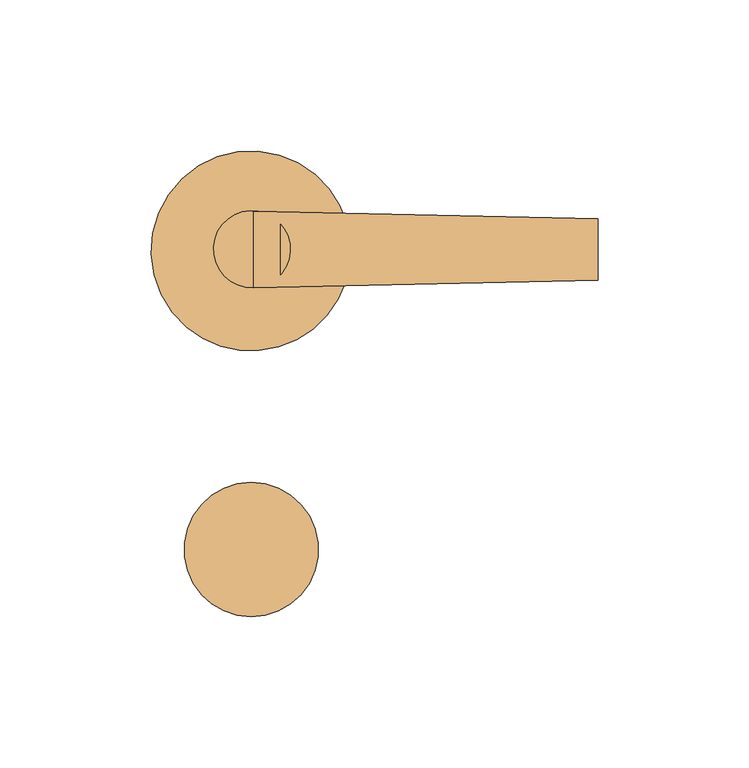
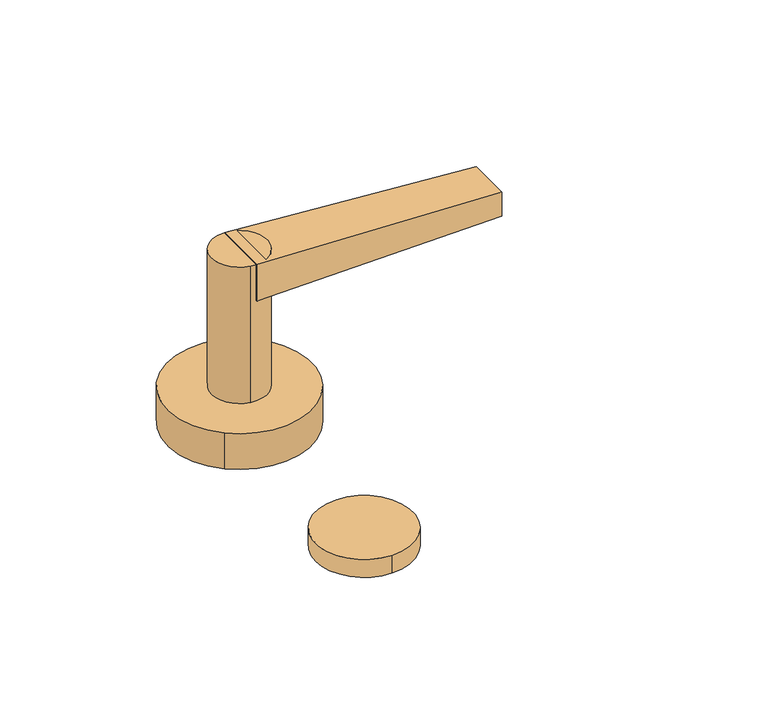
"""IFC4 building model written with IfcOpenShell, lengths in millimetres: door geometry, Door_Handle-Teknion-FHHSL-Schlage L Series(Child) : (3) Office and Inner Entrance Lock w/Interchangeable core keyway w/ADA thumbturn."""

from ifc_helpers import new_model, si_unit, point, frame, frame_2d, origin, origin_with_axes, place, context, project, spatial, circle_curve, trimmed, segment, composite_curve, outline, extrude, source, transform, mapped, element, save
from ifc_brep_helpers import plane_surface, spline_surface, advanced_brep


def door_bc668c18(model_context):
    return source(origin(), model_context, "Body", "SolidModel", [
        extrude(outline(composite_curve([segment(trimmed(circle_curve(frame_2d((-1.5048449, -99.4936932)), 22.212872), [point((-1.5048449, -121.7065651))], [point((-1.5048449, -77.2808212))], False, "CARTESIAN"), True, "CONTINUOUS"), segment(trimmed(circle_curve(frame_2d((-1.5048449, -99.4936932)), 22.212872), [point((-1.5048449, -77.2808212))], [point((-1.5048449, -121.7065651))], False, "CARTESIAN"), True, "CONTINUOUS")], self_intersect=False)), origin_with_axes(), (0.0, 0.0, 1.0), 8.636),
        advanced_brep(
        [(113.0826159, 9.8661661, 77.089), (113.0826159, -10.4783486, 77.089), (113.0826159, -10.4783486, 65.659), (113.0826159, 9.8661661, 65.659), (-0.79375, 12.3783123, 83.439), (-0.79375, 12.378509, 65.659), (-0.79375, -13.0089229, 65.659), (-0.79375, -13.0118705, 83.439)],
        [
            (0, 1),
            (1, 2),
            (2, 3),
            (3, 0),
            (4, 5),
            (5, 6),
            (6, 7),
            (7, 4),
            (4, 0),
            (3, 5),
            (2, 6),
            (1, 7),
        ],
        [
            plane_surface(frame((113.0826159, -0.3060912, 71.374), z_axis=(1.0, 0.0, 0.0), x_axis=(0.0, 1.0, 0.0))),
            plane_surface(frame((-0.79375, -0.315993, 74.549), z_axis=(-1.0000000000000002, 0.0, 0.0), x_axis=(0.0, 1.1064247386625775e-05, -0.9999999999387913))),
            spline_surface(1, 1, [[(-0.79375, 12.3783123, 83.439), (-0.79375, 12.378509, 65.659)], [(113.0826159, 9.8661661, 77.089), (113.0826159, 9.8661661, 65.659)]], [2, 2], [2, 2], [0.0, 1.0], [0.0, 1.0]),
            plane_surface(frame((-0.79375, -0.315207, 65.659), z_axis=(0.0, 0.0, -1.0), x_axis=(0.0, -1.0, 0.0))),
            spline_surface(1, 1, [[(-0.79375, -13.0089229, 65.659), (-0.79375, -13.0118705, 83.439)], [(113.0826159, -10.4783486, 65.659), (113.0826159, -10.4783486, 77.089)]], [2, 2], [2, 2], [0.0, 1.0], [0.0, 1.0]),
            plane_surface(frame((-0.79375, -0.3167791, 83.439), z_axis=(0.05567573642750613, 0.0, 0.9984489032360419), x_axis=(0.0, 1.0, 0.0))),
        ],
        [
            (0, [[1, 2, 3, 4]]),
            (1, [[5, 6, 7, 8]]),
            (2, [[9, -4, 10, -5]]),
            (3, [[-10, -3, 11, -6]]),
            (4, [[-11, -2, 12, -7]]),
            (5, [[-12, -1, -9, -8]]),
        ],
    ),
        extrude(outline(composite_curve([segment(trimmed(circle_curve(frame_2d((-1.3064074, -0.1984375)), 12.7), [point((-3.427265, -12.7200973))], [point((0.8144502, 12.3232223))], False, "CARTESIAN"), True, "CONTINUOUS"), segment(trimmed(circle_curve(frame_2d((-1.3064074, -0.1984375)), 12.7), [point((0.8144502, 12.3232223))], [point((-3.427265, -12.7200973))], False, "CARTESIAN"), True, "CONTINUOUS")], self_intersect=False)), frame((0.0, 0.0, 17.399), z_axis=(0.0, 0.0, 1.0), x_axis=(1.0, 0.0, 0.0)), (0.0, 0.0, 1.0), 66.04),
        extrude(outline(composite_curve([segment(trimmed(circle_curve(frame_2d((-1.6178614, -0.7745191)), 33.02), [point((-22.9508261, -25.9781898))], [point((19.7151032, 24.4291516))], False, "CARTESIAN"), True, "CONTINUOUS"), segment(trimmed(circle_curve(frame_2d((-1.6178614, -0.7745191)), 33.02), [point((19.7151032, 24.4291516))], [point((-22.9508261, -25.9781898))], False, "CARTESIAN"), True, "CONTINUOUS")], self_intersect=False)), origin_with_axes(), (0.0, 0.0, 1.0), 17.399),
    ])


if __name__ == "__main__":
    model = new_model("IFC4")
    model_context = context("Model", 3, world=origin())
    ifc_project = project(units=[si_unit("LENGTHUNIT", "METRE", prefix="MILLI")], contexts=[model_context])
    site = spatial("IfcSite", under=ifc_project)
    building = spatial("IfcBuilding", under=site)
    placement = place(None, origin())
    door_shape = door_bc668c18(model_context)
    element("IfcDoor", 1, ObjectType="Door_Handle-Teknion-FHHSL-Schlage L Series(Child) : (3) Office and Inner Entrance Lock w/Interchangeable core keyway w/ADA thumbturn", at=placement, inside=building, context=model_context, shape_type="MappedRepresentation", body=[
        mapped(door_shape, transform((0.0, 0.0, 0.0), x_axis=(1.0, 0.0, 0.0), y_axis=(0.0, 1.0, 0.0), z_axis=(0.0, 0.0, 1.0))),
    ])
    save(model, "model.ifc")
